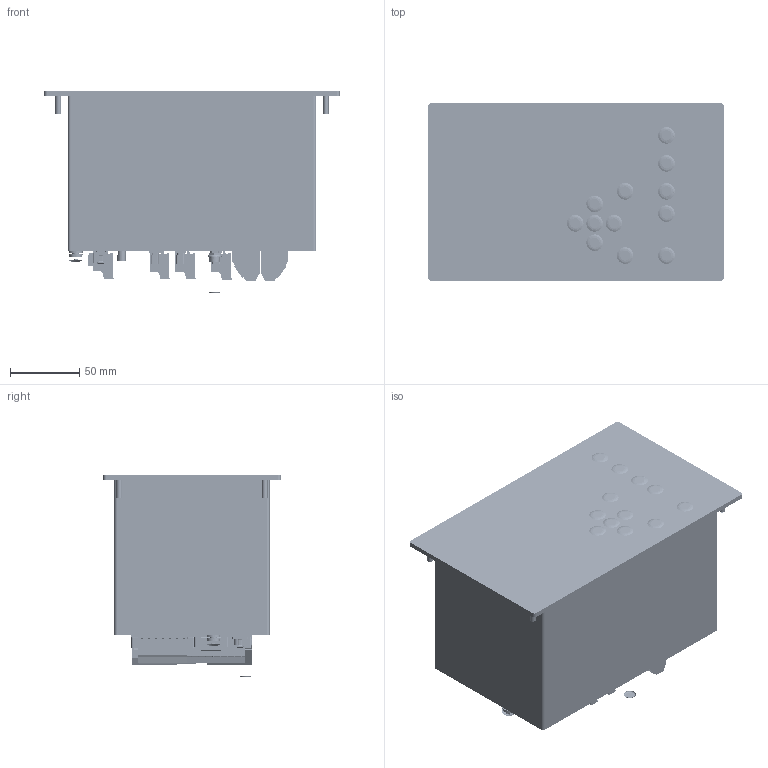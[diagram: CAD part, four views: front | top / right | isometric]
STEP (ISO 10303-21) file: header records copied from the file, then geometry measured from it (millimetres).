
FILE_DESCRIPTION(/* description */ (''),/* implementation_level */ '2;1');
FILE_NAME(/* name */ 'D:\WorkIMT\Project IMT\Алтей-02\v2\3D на сайт\МТ.ЛЮТИК-ПЛЮС.XX.stp',/* time_stamp */ '2024-11-27T15:22:56+03:00',/* author */ ('Admin'),/* organization */ (''),/* preprocessor_version */ 'ST-DEVELOPER v17.2',/* originating_system */ 'Autodesk Inventor 2019',/* authorisation */ '');
FILE_SCHEMA (('AUTOMOTIVE_DESIGN { 1 0 10303 214 3 1 1 }'));
Products named in the file (1): МТ.ЛЮТИК-ПЛЮС.
XX
Bounding box: 213 x 128 x 146.2 mm (x, y, z)
Volume: 391353.8 mm3; surface area: 294761.7 mm2
Topology: 16 solids, 282 shells, 13322 faces, 35717 edges, 23193 vertices
Faces by surface type: plane 10067, cylinder 2237, bspline 470, cone 389, torus 140, sphere 19
Full cylindrical faces by diameter (mm): 0.2 x4, 0.25 x2, 0.457 x2, 0.8 x4, 1 x2, 1.4 x8, 1.47 x30, 1.6 x8, 1.72 x1, 1.75 x4, 1.8 x2, 2 x2, 2.05 x61, 2.3 x26, 2.5 x45, 2.6 x4, 2.8 x11, 2.9 x4, 3 x30, 3.2 x2, 3.3 x7, 3.35 x2, 3.45 x2, 3.6 x7, 3.7 x8, 3.783 x8, 3.8 x38, 3.85 x4, 3.9 x8, 4 x14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
Entity records: 501072 total; most frequent: CARTESIAN_POINT 151784, ORIENTED_EDGE 71434, DIRECTION 67673, EDGE_CURVE 35717, LINE 26167, VECTOR 26167, VERTEX_POINT 23187, AXIS2_PLACEMENT_3D 20753
